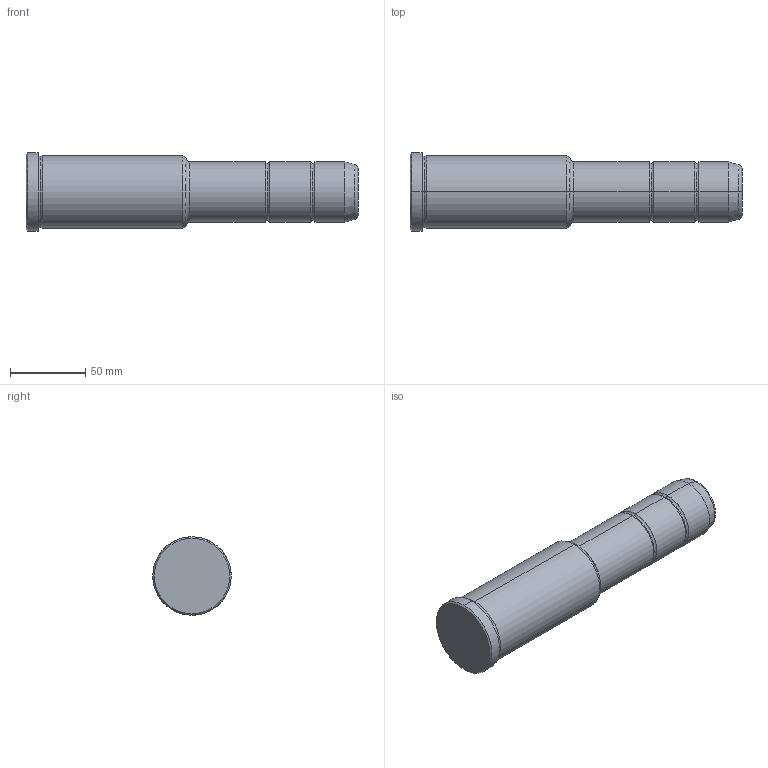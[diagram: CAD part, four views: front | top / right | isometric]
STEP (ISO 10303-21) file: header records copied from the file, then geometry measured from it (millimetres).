
FILE_DESCRIPTION(('CATIA V5 STEP Exchange'),'2;1');
FILE_NAME('C:\Users\Utente\Desktop\IO LAVORO\3D X SITO CF\X SITO\PLASTICA\351\351-40X106X220.stp','2021-10-07T14:00:19+00:00',('none'),('none'),'CATIA Version 5 Release 20 GA (IN-10)','CATIA V5 STEP AP203','none');
FILE_SCHEMA(('CONFIG_CONTROL_DESIGN'));
Length unit declared in the file: millimetre
Products named in the file (1): 351-40X106X220
Bounding box: 220 x 52 x 52 mm (x, y, z)
Volume: 335399.1 mm3; surface area: 34106 mm2
Topology: 1 solids, 1 shells, 36 faces, 102 edges, 70 vertices
Faces by surface type: torus 16, cylinder 10, cone 6, plane 4
Entity records: 1292 total; most frequent: CARTESIAN_POINT 321, ORIENTED_EDGE 204, DIRECTION 166, AXIS2_PLACEMENT_3D 115, EDGE_CURVE 102, CIRCLE 78, VERTEX_POINT 70, EDGE_LOOP 38
